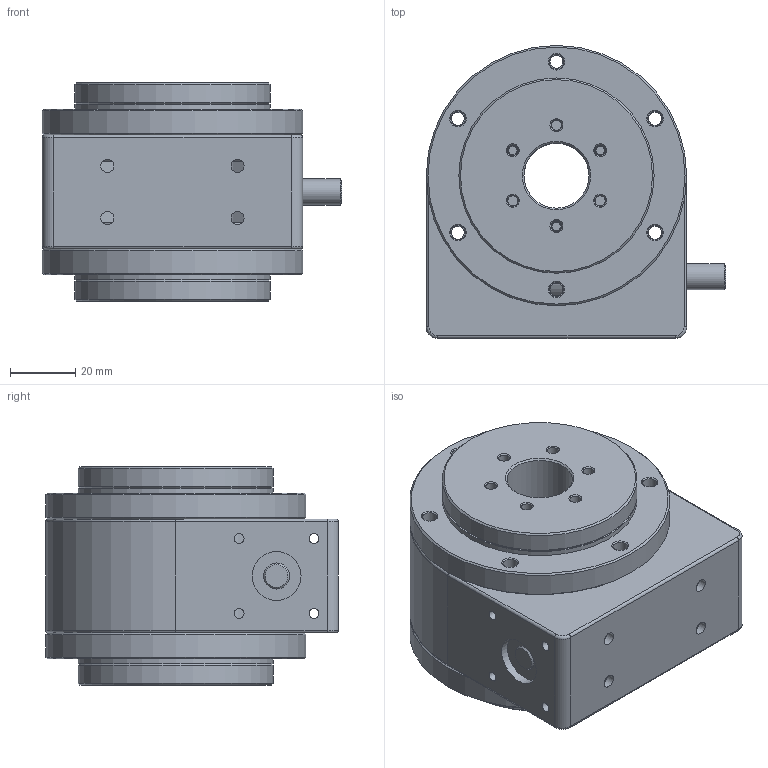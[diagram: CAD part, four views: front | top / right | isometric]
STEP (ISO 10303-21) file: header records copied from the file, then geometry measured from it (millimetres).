
FILE_DESCRIPTION((''),'2;1');
FILE_NAME('I:\Gleitlager\Konstruktion\robolink\Vorserie\RL-D\RL-D Gelenke\RL-D-20-1xx\Simpel\___RL-D-20-101-38-01033.stp','2015-05-05T08:52:15',('mraak'),(''),'Autodesk Inventor 2013','Autodesk Inventor 2013','');
FILE_SCHEMA(('AUTOMOTIVE_DESIGN { 1 0 10303 214 1 1 1 1 }'));
Length unit declared in the file: millimetre
Products named in the file (8): ___RL-D-20-101-38-00033; ___RL-D-20-0XXXX; ___RL-D-20-X0XXX; PRT-01-20; Bauteil17; Bauteil13; Bauteil15; Bauteil7
Assembly tree (10 placements, depth 3):
  ___RL-D-20-101-38-00033
    ___RL-D-20-0XXXX
    ___RL-D-20-X0XXX
    PRT-01-20  x2
      Bauteil17
      Bauteil13
      Bauteil15
      Bauteil7
Bounding box: 92 x 90 x 67 mm (x, y, z)
Volume: 197850.1 mm3; surface area: 109582.4 mm2
Topology: 14 solids, 14 shells, 401 faces, 769 edges, 448 vertices
Faces by surface type: cone 134, cylinder 129, plane 122, torus 16
Full cylindrical faces by diameter (mm): 3 x8, 3.3 x12, 4 x22, 4.5 x24, 7 x6, 8 x16, 15 x3, 20 x6, 37 x4, 40 x4, 60 x8, 62 x2, 80 x2
Entity records: 5142 total; most frequent: DIRECTION 940, CARTESIAN_POINT 753, ORIENTED_EDGE 560, AXIS2_PLACEMENT_3D 449, EDGE_LOOP 434, EDGE_CURVE 280, VERTEX_POINT 244, FACE_BOUND 235
